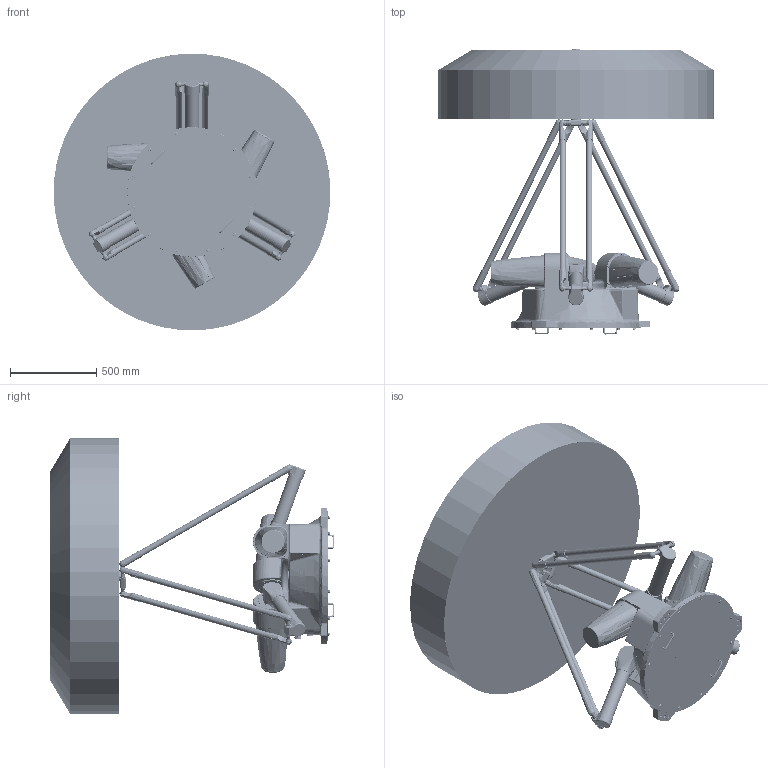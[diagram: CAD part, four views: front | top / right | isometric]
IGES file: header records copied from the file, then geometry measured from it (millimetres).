
Start section: SolidWorks IGES file using analytic representation for surfaces
Global section: file name: X:\03研发部\50-Robot\20-Delta\240-AP25X\10-Design\02-Mechanical\02-FDR 阶段资料\04-对外发布模型\AP25X-1600-1543外发模型\AP25X-1600-1543-T0-V3.0.1.IGS; native system: SolidWorks 2017; preprocessor: SolidWorks 2017; author: 1023; date: 250211.140622; units: millimetre
Bounding box: 1599.97 x 1647 x 1599.97 mm (x, y, z)
Surface area: 10433863.1 mm2 (no closed solid volume)
Topology: 0 solids, 0 shells, 5955 faces, 81879 edges, 81578 vertices
Faces by surface type: bspline 3786, revolution 2169
